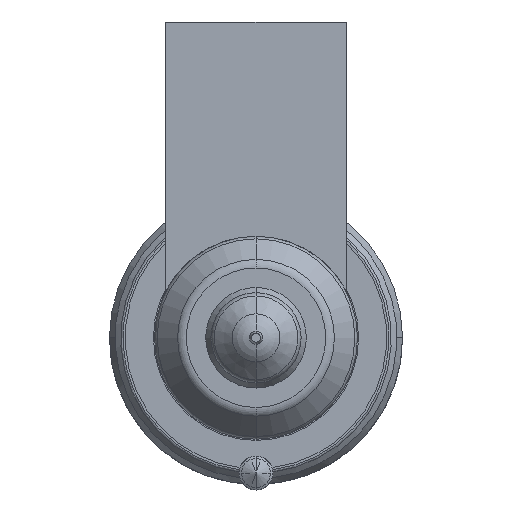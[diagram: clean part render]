
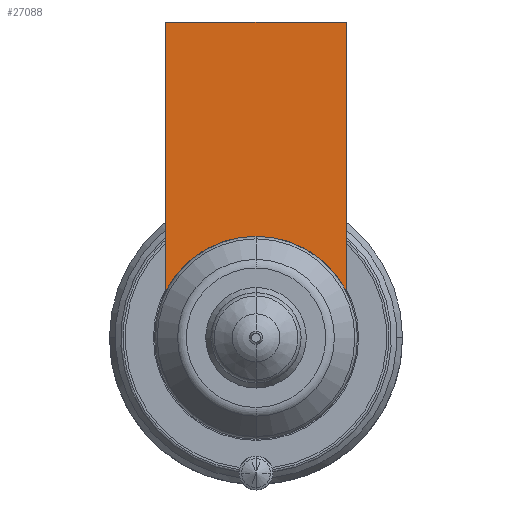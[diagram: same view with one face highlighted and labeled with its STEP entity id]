
A CAD part, front view. The second image highlights one B-rep face of the part: STEP entity #27088.
In plain terms, the highlighted planar face has unit normal (0, -1, 0).
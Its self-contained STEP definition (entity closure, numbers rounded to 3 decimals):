
#26199=DIRECTION('',(1.,0.,0.));
#26200=VECTOR('',#26199,16.);
#26201=CARTESIAN_POINT('',(-8.,-54.,28.));
#26202=LINE('',#26201,#26200);
#26207=CARTESIAN_POINT('',(0.,-54.,0.));
#26208=DIRECTION('',(0.,-1.,0.));
#26209=DIRECTION('',(0.889,0.,0.458));
#26210=AXIS2_PLACEMENT_3D('',#26207,#26208,#26209);
#26215=CARTESIAN_POINT('',(0.,-54.,0.));
#26216=DIRECTION('',(0.,-1.,0.));
#26217=DIRECTION('',(0.,0.,1.));
#26218=AXIS2_PLACEMENT_3D('',#26215,#26216,#26217);
#26244=DIRECTION('',(0.,0.,-1.));
#26245=VECTOR('',#26244,23.877);
#26246=CARTESIAN_POINT('',(-8.,-54.,28.));
#26247=LINE('',#26246,#26245);
#26932=DIRECTION('',(0.,0.,-1.));
#26933=VECTOR('',#26932,23.877);
#26934=CARTESIAN_POINT('',(8.,-54.,28.));
#26935=LINE('',#26934,#26933);
#26985=CARTESIAN_POINT('',(-8.,-54.,28.));
#26986=VERTEX_POINT('',#26985);
#26991=CARTESIAN_POINT('',(8.,-54.,28.));
#26992=VERTEX_POINT('',#26991);
#26995=CARTESIAN_POINT('',(-8.,-54.,4.123));
#26996=VERTEX_POINT('',#26995);
#26999=CARTESIAN_POINT('',(8.,-54.,4.123));
#27000=VERTEX_POINT('',#26999);
#27069=CARTESIAN_POINT('',(0.,-54.,9.));
#27070=VERTEX_POINT('',#27069);
#27071=CARTESIAN_POINT('',(0.,-54.,9.));
#27072=DIRECTION('',(0.,1.,0.));
#27073=DIRECTION('',(0.,0.,-1.));
#27074=AXIS2_PLACEMENT_3D('',#27071,#27072,#27073);
#27075=PLANE('',#27074);
#27077=ORIENTED_EDGE('',*,*,#27076,.F.);
#27079=ORIENTED_EDGE('',*,*,#27078,.T.);
#27081=ORIENTED_EDGE('',*,*,#27080,.T.);
#27083=ORIENTED_EDGE('',*,*,#27082,.T.);
#27085=ORIENTED_EDGE('',*,*,#27084,.T.);
#27086=EDGE_LOOP('',(#27077,#27079,#27081,#27083,#27085));
#27087=FACE_OUTER_BOUND('',#27086,.F.);
#27088=ADVANCED_FACE('',(#27087),#27075,.F.);
#26211=CIRCLE('',#26210,9.);
#26219=CIRCLE('',#26218,9.);
#27076=EDGE_CURVE('',#26986,#26996,#26247,.T.);
#27078=EDGE_CURVE('',#26986,#26992,#26202,.T.);
#27080=EDGE_CURVE('',#26992,#27000,#26935,.T.);
#27082=EDGE_CURVE('',#27000,#27070,#26211,.T.);
#27084=EDGE_CURVE('',#27070,#26996,#26219,.T.);
